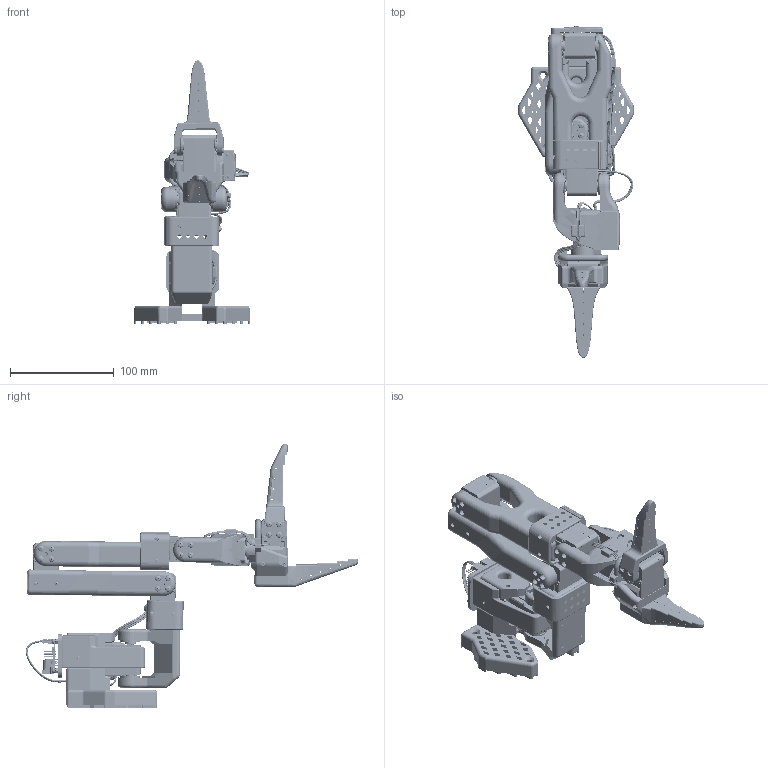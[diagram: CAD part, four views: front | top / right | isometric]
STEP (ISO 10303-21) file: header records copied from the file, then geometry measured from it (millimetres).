
FILE_DESCRIPTION(/* description */ (''),/* implementation_level */ '2;1');
FILE_NAME(/* name */ 'SO101 Assembly v4.step',/* time_stamp */ '2025-04-15T13:10:53+02:00',/* author */ (''),/* organization */ (''),/* preprocessor_version */ 'ST-DEVELOPER v20.1',/* originating_system */ 'Autodesk Translation Framework v14.4.0.0',/* authorisation */ '');
FILE_SCHEMA (('AUTOMOTIVE_DESIGN { 1 0 10303 214 3 1 1 }'));
Products named in the file (214): SO101 Assembly; Base_SO101; Rotation_Pitch_SO101; Upper_arm_SO101; Wiring_holder v1; Wiring_holder v1 (1); Under_arm_SO101; Wiring_holder v1_1; Base_08p; Motor_holder_SO101_Base; Wiring_holder v1_2; Wiring_holder v1 (1)_1; Wiring_holder v1 (2); Motor_holder_SO101_Wrist; Wiring_holder v1_3; Wiring_holder v1 (1)_2; Wrist_Roll_Pitch_SO100; Wiring_holder v1_4; Wrist_Roll_Follower_SO101; Wrist_Roll_SO101 v6; Wiring_holder v1_5; Wiring_holder v1 (1)_3; Moving_Jaw_SO101; CRFHTSTATI ANSI B18.6.4 - 0-48 x 3/16 Steel Grade 2 Plain; CRFHTSTATI ANSI B18.6.4 - 1-42 x 3/16 Steel Grade 2 Plain; PCB; Board; C1; C2; C3; C4; C5; C7; C_0603; C_0603-7177_AF0_ASM; C_0603-683_AF0_ASM; C6; D2; DC1; dc-005-5a-20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
Assembly tree (387 placements, depth 7):
  SO101 Assembly
    Base_SO101
    Rotation_Pitch_SO101
    Upper_arm_SO101
      Wiring_holder v1
      Wiring_holder v1 (1)
    Under_arm_SO101
      Wiring_holder v1_1
    Base_08p
    Motor_holder_SO101_Base
      Wiring_holder v1_2
      Wiring_holder v1 (1)_1
      Wiring_holder v1 (2)
    Motor_holder_SO101_Wrist
      Wiring_holder v1_3
      Wiring_holder v1 (1)_2
    Wrist_Roll_Pitch_SO100
      Wiring_holder v1_4
    Wrist_Roll_Follower_SO101
      Wrist_Roll_SO101 v6
        Wiring_holder v1_5
        Wiring_holder v1 (1)_3
    Moving_Jaw_SO101
    CRFHTSTATI ANSI B18.6.4 - 1-42 x 3/16 Steel Grade 2 Plain  x22
    CRFHTSTATI ANSI B18.6.4 - 0-48 x 3/16 Steel Grade 2 Plain  x2
    DIN EN ISO 7045 - M3 x 6 - H Steel 4.6 Plain  x45
    PCB
      Board
      C1
        User_Library-0603_SMD_Capacitor
      C2
        User_Library-0603_SMD_Capacitor
      C3
        User_Library-0603_SMD_Capacitor
      C4
        User_Library-0603_SMD_Capacitor
      C5
        User_Library-0603_SMD_Capacitor
      C7
        C_0603
          C_0603-7177_AF0_ASM
            C_0603-683_AF0_ASM
              2_1_200
              _1_1_20001
              3_1_2_A
      C6
        User_Library-0603_SMD_Capacitor
      D2
        SOD323
      DC1
        dc-005-5a-20
      H1
        User_Library-DG350-3,5-02P
      H3
        X2564WV-03-N0SN
      H5
        X2564WV-03-N0SN
      R2
        R0603
          R_0603-3615_AF0_ASM
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Bounding box: 110.92 x 319.35 x 253.43 mm (x, y, z)
Volume: 839789.5 mm3; surface area: 347673.9 mm2
Topology: 266 solids, 340 shells, 22062 faces, 59484 edges, 38847 vertices
Faces by surface type: plane 12697, cylinder 5148, bspline 2906, cone 557, torus 435, sphere 319
Full cylindrical faces by diameter (mm): 0.08 x1, 0.4 x1, 0.5 x2, 0.7 x12, 0.762 x2, 0.8 x2, 0.82 x6, 0.889 x11, 1 x15, 1.2 x6, 1.448 x2, 1.5 x21, 1.6 x72, 1.829 x22, 2 x16, 2.2 x42, 2.256 x4, 2.43 x4, 2.438 x2, 2.5 x202, 2.529 x2, 2.6 x6, 2.729 x45, 2.8 x2, 2.927 x45, 2.997 x22, 3 x3, 3.2 x16, 3.5 x18, 4 x8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
Entity records: 327376 total; most frequent: CARTESIAN_POINT 111573, ORIENTED_EDGE 45451, DIRECTION 41571, EDGE_CURVE 22726, LINE 15701, VECTOR 15701, VERTEX_POINT 14762, AXIS2_PLACEMENT_3D 12935
